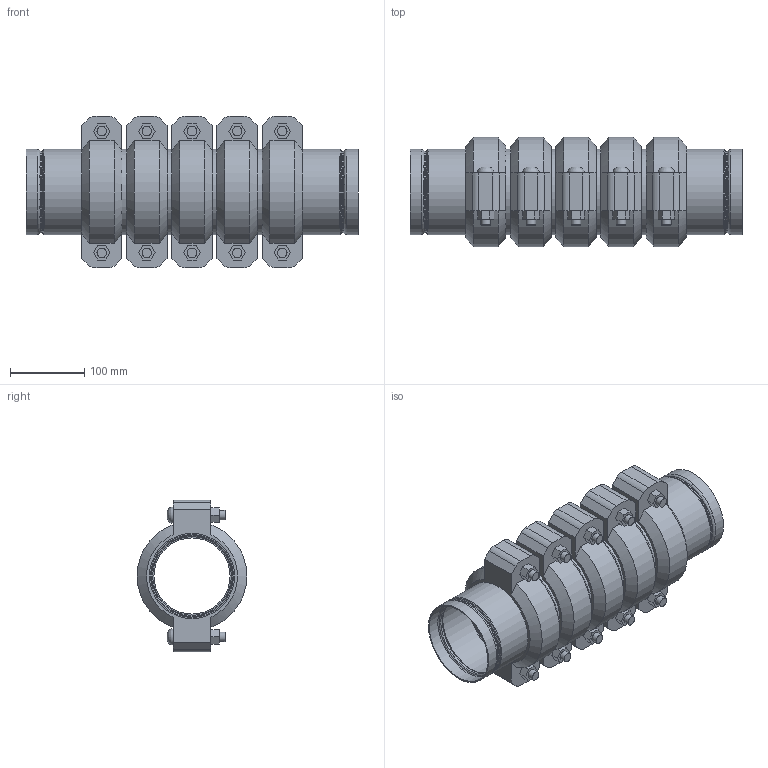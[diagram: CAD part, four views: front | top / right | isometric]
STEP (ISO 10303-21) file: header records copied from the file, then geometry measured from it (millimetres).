
FILE_DESCRIPTION(/* description */ ('VIC STRENGTHIN 100 EXPANSION JOINT 5 COUPLINGS COMPRESSED STYLE E155 (ST1)','CAx-IF Rec.Pracs.---Representation and Presentation of Product Manufacturing Information (PMI)---4.0---2014-10-13'),/* implementation_level */ '2;1');
FILE_NAME(/* name */ 'C:\Users\Vjadhav\AppData\Roaming\Autodesk\ApplicationPlugins\Victaulic.Temp\A149\Victaulic_SS-StrengThin 100_Expansion Joint_Compressed_5 Couplings_Style E155 (ST1)_4 (100).stp',/* time_stamp */ '2021-07-23T12:32:38+05:00',/* author */ ('kkamble'),/* organization */ ('Victaulic'),/* preprocessor_version */ 'ST-DEVELOPER v17.2',/* originating_system */ 'Autodesk Inventor 2019',/* authorisation */ '');
FILE_SCHEMA (('AP242_MANAGED_MODEL_BASED_3D_ENGINEERING_MIM_LF { 1 0 10303 442 1 1 4 }'));
Length unit declared in the file: inch
Products named in the file (4): E155-04.0; E494G-04.0; Nipple-04.0; 075-04.0
Assembly tree (11 placements, depth 2):
  E155-04.0
    E494G-04.0  x2
    Nipple-04.0  x4
    075-04.0  x5
Bounding box: 445.77 x 147.32 x 203.96 mm (x, y, z)
Volume: 2963612.6 mm3; surface area: 723533 mm2
Topology: 11 solids, 21 shells, 381 faces, 977 edges, 692 vertices
Faces by surface type: plane 206, cylinder 109, torus 32, cone 24, bspline 10
Full cylindrical faces by diameter (mm): 12.7 x20, 14.605 x10, 102.26 x4, 105.639 x2, 106.883 x2, 108.839 x2, 110.084 x10, 111.1 x6, 114.3 x23
Entity records: 3647 total; most frequent: DIRECTION 647, CARTESIAN_POINT 643, ORIENTED_EDGE 536, AXIS2_PLACEMENT_3D 275, EDGE_CURVE 268, VERTEX_POINT 193, CIRCLE 163, EDGE_LOOP 123
